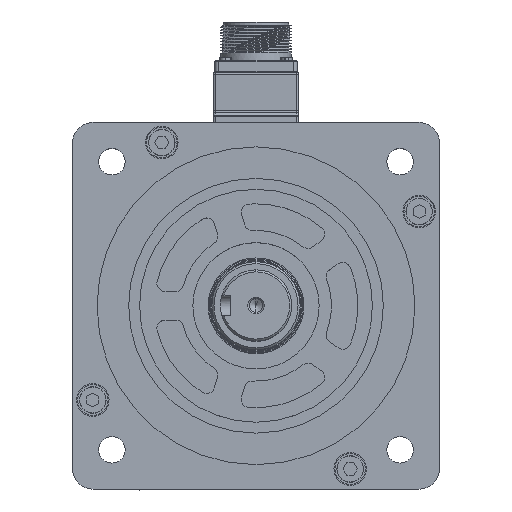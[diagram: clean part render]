
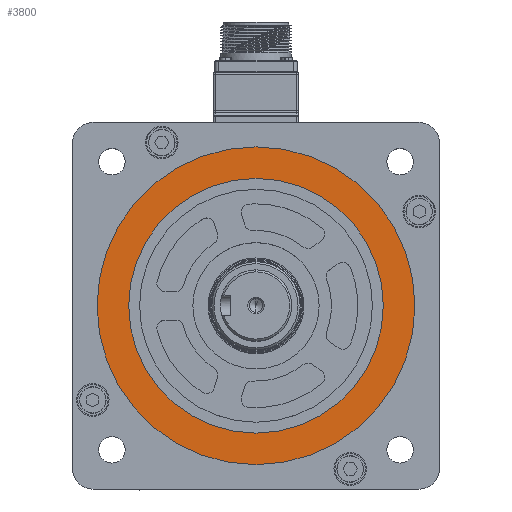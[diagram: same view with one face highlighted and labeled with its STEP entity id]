
A CAD part, top view. The second image highlights one B-rep face of the part: STEP entity #3800.
In plain terms, the highlighted planar face has unit normal (0, 0, 1) as drawn and (1, 0, 0) by its records, which use the part's own axes.
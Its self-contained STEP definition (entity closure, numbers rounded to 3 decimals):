
#1228 = CARTESIAN_POINT ( 'NONE',  ( 22.02, 0., 0. ) ) ;
#1264 = EDGE_CURVE ( 'NONE', #33827, #16166, #8907, .T. ) ;
#3001 = DIRECTION ( 'NONE',  ( -1., 0., 0. ) ) ;
#3011 = EDGE_LOOP ( 'NONE', ( #41290, #26186 ) ) ;
#3235 = CARTESIAN_POINT ( 'NONE',  ( 22.02, 0., -78. ) ) ;
#3655 = DIRECTION ( 'NONE',  ( 0., 0., 1. ) ) ;
#3800 = ADVANCED_FACE ( 'NONE', ( #43093, #14690 ), #38965, .F. ) ;
#4026 = AXIS2_PLACEMENT_3D ( 'NONE', #1228, #26116, #4818 ) ;
#4468 = CARTESIAN_POINT ( 'NONE',  ( 22.02, 0., -62.5 ) ) ;
#4818 = DIRECTION ( 'NONE',  ( 0., 0., 1. ) ) ;
#5207 = EDGE_CURVE ( 'NONE', #34555, #7852, #12441, .T. ) ;
#7769 = CARTESIAN_POINT ( 'NONE',  ( 22.02, 0., 78. ) ) ;
#7852 = VERTEX_POINT ( 'NONE', #34227 ) ;
#8907 = CIRCLE ( 'NONE', #17247, 78. ) ;
#12072 = DIRECTION ( 'NONE',  ( -1., 0., 0. ) ) ;
#12441 = CIRCLE ( 'NONE', #41240, 62.5 ) ;
#12493 = ORIENTED_EDGE ( 'NONE', *, *, #5207, .T. ) ;
#14687 = AXIS2_PLACEMENT_3D ( 'NONE', #35392, #21295, #3655 ) ;
#14690 = FACE_BOUND ( 'NONE', #42003, .T. ) ;
#16166 = VERTEX_POINT ( 'NONE', #3235 ) ;
#17247 = AXIS2_PLACEMENT_3D ( 'NONE', #33342, #12072, #36906 ) ;
#19129 = CARTESIAN_POINT ( 'NONE',  ( 22.02, 0., 0. ) ) ;
#20323 = EDGE_CURVE ( 'NONE', #16166, #33827, #32282, .T. ) ;
#20951 = CIRCLE ( 'NONE', #4026, 62.5 ) ;
#21295 = DIRECTION ( 'NONE',  ( -1., 0., 0. ) ) ;
#22700 = DIRECTION ( 'NONE',  ( 0., 0., 1. ) ) ;
#24304 = CARTESIAN_POINT ( 'NONE',  ( 22.02, 0., 0. ) ) ;
#24922 = AXIS2_PLACEMENT_3D ( 'NONE', #24304, #3001, #27857 ) ;
#25314 = ORIENTED_EDGE ( 'NONE', *, *, #40521, .T. ) ;
#26116 = DIRECTION ( 'NONE',  ( -1., 0., 0. ) ) ;
#26186 = ORIENTED_EDGE ( 'NONE', *, *, #20323, .F. ) ;
#27857 = DIRECTION ( 'NONE',  ( 0., 0., 1. ) ) ;
#32282 = CIRCLE ( 'NONE', #24922, 78. ) ;
#33342 = CARTESIAN_POINT ( 'NONE',  ( 22.02, 0., 0. ) ) ;
#33827 = VERTEX_POINT ( 'NONE', #7769 ) ;
#34227 = CARTESIAN_POINT ( 'NONE',  ( 22.02, 0., 62.5 ) ) ;
#34555 = VERTEX_POINT ( 'NONE', #4468 ) ;
#35392 = CARTESIAN_POINT ( 'NONE',  ( 22.02, 62.5, 0. ) ) ;
#36906 = DIRECTION ( 'NONE',  ( 0., 0., 1. ) ) ;
#38965 = PLANE ( 'NONE',  #14687 ) ;
#40521 = EDGE_CURVE ( 'NONE', #7852, #34555, #20951, .T. ) ;
#41240 = AXIS2_PLACEMENT_3D ( 'NONE', #19129, #44001, #22700 ) ;
#41290 = ORIENTED_EDGE ( 'NONE', *, *, #1264, .F. ) ;
#42003 = EDGE_LOOP ( 'NONE', ( #25314, #12493 ) ) ;
#43093 = FACE_OUTER_BOUND ( 'NONE', #3011, .T. ) ;
#44001 = DIRECTION ( 'NONE',  ( -1., 0., 0. ) ) ;
